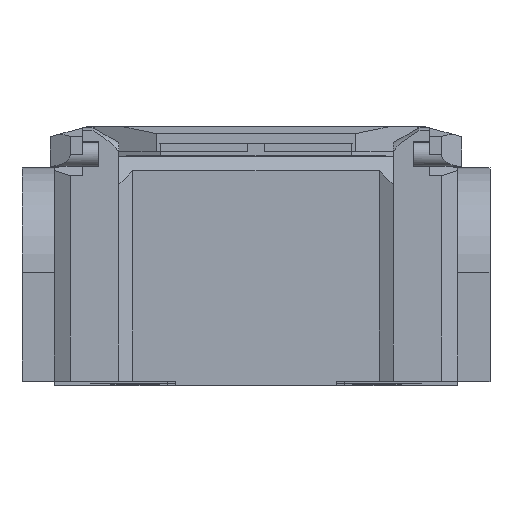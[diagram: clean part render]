
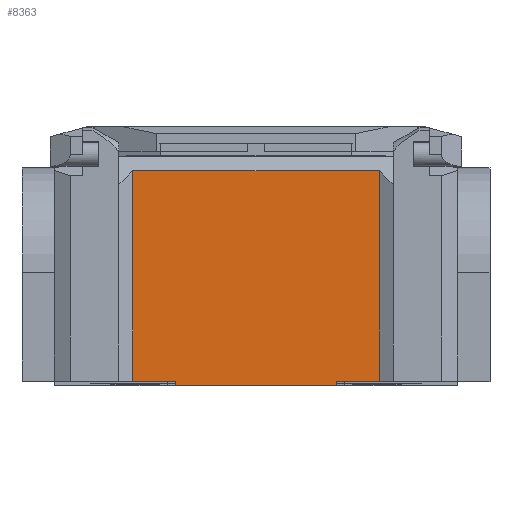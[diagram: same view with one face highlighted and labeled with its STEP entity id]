
A CAD part, top view. The second image highlights one B-rep face of the part: STEP entity #8363.
In plain terms, the highlighted planar face has unit normal (0, 0, -1).
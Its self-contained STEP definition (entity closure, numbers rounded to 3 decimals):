
#258=DIRECTION('',(-1.,0.,0.));
#259=VECTOR('',#258,5.268);
#260=CARTESIAN_POINT('',(-10.,-9.5,49.));
#261=LINE('',#260,#259);
#328=DIRECTION('',(-1.,0.,0.));
#329=VECTOR('',#328,5.268);
#330=CARTESIAN_POINT('',(15.268,-9.5,49.));
#331=LINE('',#330,#329);
#1264=DIRECTION('',(0.,-1.,0.));
#1265=VECTOR('',#1264,0.5);
#1266=CARTESIAN_POINT('',(-10.,-9.5,49.));
#1267=LINE('',#1266,#1265);
#1300=DIRECTION('',(0.,1.,0.));
#1301=VECTOR('',#1300,0.5);
#1302=CARTESIAN_POINT('',(10.,-10.,49.));
#1303=LINE('',#1302,#1301);
#1308=DIRECTION('',(-1.,0.,0.));
#1309=VECTOR('',#1308,20.);
#1310=CARTESIAN_POINT('',(10.,-10.,49.));
#1311=LINE('',#1310,#1309);
#1312=DIRECTION('',(0.,-1.,0.));
#1313=VECTOR('',#1312,26.068);
#1314=CARTESIAN_POINT('',(15.268,16.568,49.));
#1315=LINE('',#1314,#1313);
#1320=DIRECTION('',(-1.,0.,0.));
#1321=VECTOR('',#1320,30.536);
#1322=CARTESIAN_POINT('',(15.268,16.568,49.));
#1323=LINE('',#1322,#1321);
#3739=DIRECTION('',(0.,-1.,0.));
#3740=VECTOR('',#3739,26.068);
#3741=CARTESIAN_POINT('',(-15.268,16.568,49.));
#3742=LINE('',#3741,#3740);
#6954=CARTESIAN_POINT('',(10.,-10.,49.));
#6955=VERTEX_POINT('',#6954);
#6956=CARTESIAN_POINT('',(-10.,-10.,49.));
#6957=VERTEX_POINT('',#6956);
#7197=CARTESIAN_POINT('',(15.268,16.568,49.));
#7198=VERTEX_POINT('',#7197);
#7199=CARTESIAN_POINT('',(15.268,-9.5,49.));
#7200=VERTEX_POINT('',#7199);
#7201=CARTESIAN_POINT('',(-15.268,16.568,49.));
#7202=VERTEX_POINT('',#7201);
#7203=CARTESIAN_POINT('',(-15.268,-9.5,49.));
#7204=VERTEX_POINT('',#7203);
#7205=CARTESIAN_POINT('',(-10.,-9.5,49.));
#7206=VERTEX_POINT('',#7205);
#7207=CARTESIAN_POINT('',(10.,-9.5,49.));
#7208=VERTEX_POINT('',#7207);
#8344=CARTESIAN_POINT('',(0.,3.284,49.));
#8345=DIRECTION('',(0.,0.,1.));
#8346=DIRECTION('',(-1.,0.,0.));
#8347=AXIS2_PLACEMENT_3D('',#8344,#8345,#8346);
#8348=PLANE('',#8347);
#8350=ORIENTED_EDGE('',*,*,#8349,.T.);
#8352=ORIENTED_EDGE('',*,*,#8351,.T.);
#8353=ORIENTED_EDGE('',*,*,#7785,.F.);
#8354=ORIENTED_EDGE('',*,*,#8282,.T.);
#8356=ORIENTED_EDGE('',*,*,#8355,.F.);
#8357=ORIENTED_EDGE('',*,*,#8337,.T.);
#8358=ORIENTED_EDGE('',*,*,#7824,.F.);
#8360=ORIENTED_EDGE('',*,*,#8359,.F.);
#8361=EDGE_LOOP('',(#8350,#8352,#8353,#8354,#8356,#8357,#8358,#8360));
#8362=FACE_OUTER_BOUND('',#8361,.F.);
#7785=EDGE_CURVE('',#7206,#7204,#261,.T.);
#7824=EDGE_CURVE('',#7200,#7208,#331,.T.);
#8282=EDGE_CURVE('',#7206,#6957,#1267,.T.);
#8337=EDGE_CURVE('',#6955,#7208,#1303,.T.);
#8349=EDGE_CURVE('',#7198,#7202,#1323,.T.);
#8351=EDGE_CURVE('',#7202,#7204,#3742,.T.);
#8355=EDGE_CURVE('',#6955,#6957,#1311,.T.);
#8359=EDGE_CURVE('',#7198,#7200,#1315,.T.);
#8363=ADVANCED_FACE('',(#8362),#8348,.F.);
